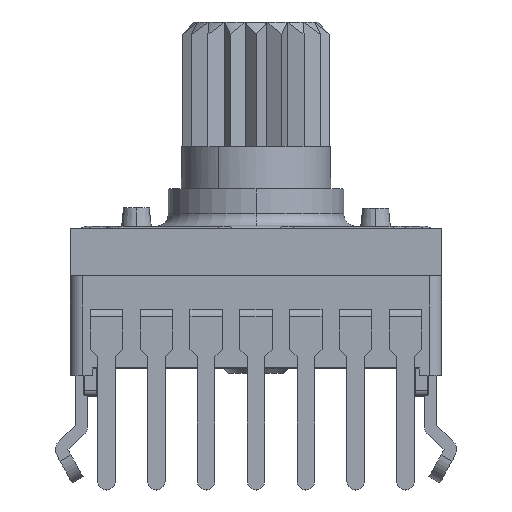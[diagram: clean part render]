
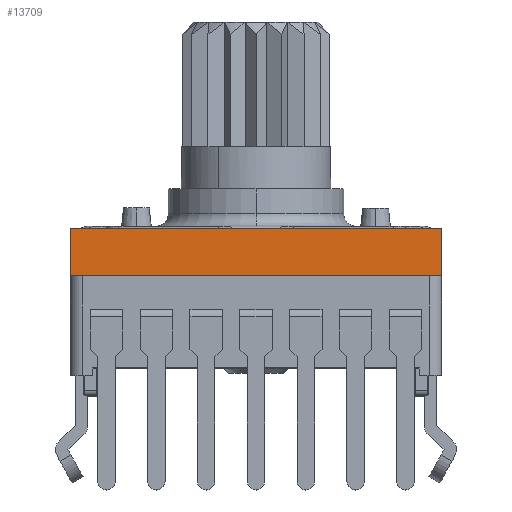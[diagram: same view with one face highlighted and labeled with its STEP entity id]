
A CAD part, top view. The second image highlights one B-rep face of the part: STEP entity #13709.
In plain terms, the highlighted planar face has unit normal (0, 0, 1).
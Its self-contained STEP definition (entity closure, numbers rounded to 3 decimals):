
#176 = VERTEX_POINT ( 'NONE', #11074 ) ;
#304 = DIRECTION ( 'NONE',  ( 0., 1., 0. ) ) ;
#319 = CARTESIAN_POINT ( 'NONE',  ( 7.45, 5.6, -1. ) ) ;
#1673 = LINE ( 'NONE', #4848, #3554 ) ;
#1727 = EDGE_CURVE ( 'NONE', #6553, #14707, #12303, .T. ) ;
#2223 = CARTESIAN_POINT ( 'NONE',  ( -7.45, 3.7, -1. ) ) ;
#2848 = EDGE_CURVE ( 'NONE', #176, #6553, #14111, .T. ) ;
#3080 = CARTESIAN_POINT ( 'NONE',  ( 7.45, 3.7, -1. ) ) ;
#3554 = VECTOR ( 'NONE', #13493, 1000. ) ;
#4848 = CARTESIAN_POINT ( 'NONE',  ( 0., 3.7, -1. ) ) ;
#4969 = ORIENTED_EDGE ( 'NONE', *, *, #2848, .F. ) ;
#5938 = LINE ( 'NONE', #3080, #8141 ) ;
#6553 = VERTEX_POINT ( 'NONE', #16167 ) ;
#7240 = VECTOR ( 'NONE', #18139, 1000. ) ;
#7522 = DIRECTION ( 'NONE',  ( 1., 0., 0. ) ) ;
#7620 = FACE_OUTER_BOUND ( 'NONE', #14605, .T. ) ;
#8141 = VECTOR ( 'NONE', #304, 1000. ) ;
#8391 = VECTOR ( 'NONE', #10772, 1000. ) ;
#10772 = DIRECTION ( 'NONE',  ( 1., 0., 0. ) ) ;
#11074 = CARTESIAN_POINT ( 'NONE',  ( -7.45, 3.7, -1. ) ) ;
#11504 = AXIS2_PLACEMENT_3D ( 'NONE', #17697, #11855, #7522 ) ;
#11855 = DIRECTION ( 'NONE',  ( 0., 0., 1. ) ) ;
#12147 = ORIENTED_EDGE ( 'NONE', *, *, #1727, .F. ) ;
#12303 = LINE ( 'NONE', #319, #8391 ) ;
#13117 = ORIENTED_EDGE ( 'NONE', *, *, #15142, .T. ) ;
#13486 = PLANE ( 'NONE',  #11504 ) ;
#13493 = DIRECTION ( 'NONE',  ( 1., 0., 0. ) ) ;
#13709 = ADVANCED_FACE ( 'NONE', ( #7620 ), #13486, .T. ) ;
#14111 = LINE ( 'NONE', #2223, #7240 ) ;
#14605 = EDGE_LOOP ( 'NONE', ( #13117, #12147, #4969, #17358 ) ) ;
#14707 = VERTEX_POINT ( 'NONE', #17680 ) ;
#15142 = EDGE_CURVE ( 'NONE', #18802, #14707, #5938, .T. ) ;
#15482 = EDGE_CURVE ( 'NONE', #176, #18802, #1673, .T. ) ;
#16167 = CARTESIAN_POINT ( 'NONE',  ( -7.45, 5.6, -1. ) ) ;
#16652 = CARTESIAN_POINT ( 'NONE',  ( 7.45, 3.7, -1. ) ) ;
#17358 = ORIENTED_EDGE ( 'NONE', *, *, #15482, .T. ) ;
#17680 = CARTESIAN_POINT ( 'NONE',  ( 7.45, 5.6, -1. ) ) ;
#17697 = CARTESIAN_POINT ( 'NONE',  ( 0., 3.7, -1. ) ) ;
#18139 = DIRECTION ( 'NONE',  ( 0., 1., 0. ) ) ;
#18802 = VERTEX_POINT ( 'NONE', #16652 ) ;
